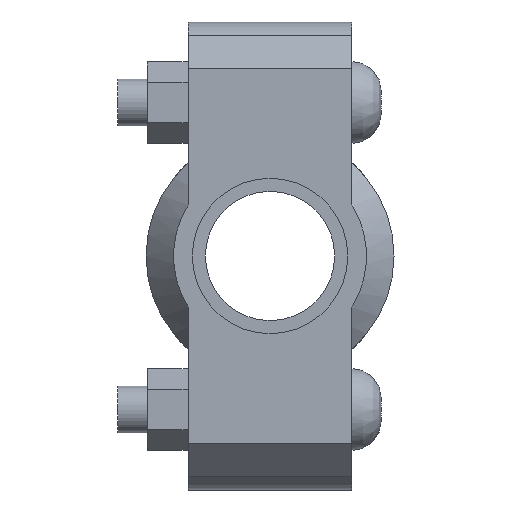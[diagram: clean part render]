
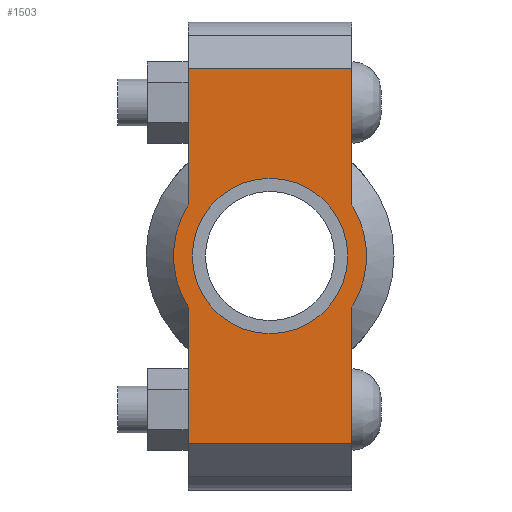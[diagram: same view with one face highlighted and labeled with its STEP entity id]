
A CAD part, left-side view. The second image highlights one B-rep face of the part: STEP entity #1503.
In plain terms, the highlighted planar face has unit normal (-1, 0, 0) as drawn and (0, 0, 1) by its records, which use the part's own axes.
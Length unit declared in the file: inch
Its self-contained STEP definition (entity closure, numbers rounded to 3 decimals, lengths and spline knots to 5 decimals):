
#114=LINE('',#2581,#209);
#129=LINE('',#2640,#224);
#137=LINE('',#2670,#232);
#139=LINE('',#2673,#234);
#140=LINE('',#2678,#235);
#141=LINE('',#2679,#236);
#209=VECTOR('',#2091,0.3937);
#224=VECTOR('',#2126,0.3937);
#232=VECTOR('',#2146,0.3937);
#234=VECTOR('',#2150,0.3937);
#235=VECTOR('',#2155,0.3937);
#236=VECTOR('',#2156,0.3937);
#296=FACE_BOUND('',#455,.T.);
#356=FACE_OUTER_BOUND('',#454,.T.);
#454=EDGE_LOOP('',(#1198,#1199,#1200,#1201,#1202,#1203,#1204,#1205));
#455=EDGE_LOOP('',(#1206));
#560=CIRCLE('',#1766,1.031);
#561=CIRCLE('',#1767,1.031);
#562=CIRCLE('',#1768,0.83);
#669=VERTEX_POINT('',#2578);
#670=VERTEX_POINT('',#2580);
#691=VERTEX_POINT('',#2635);
#692=VERTEX_POINT('',#2639);
#701=VERTEX_POINT('',#2665);
#702=VERTEX_POINT('',#2669);
#703=VERTEX_POINT('',#2675);
#704=VERTEX_POINT('',#2677);
#705=VERTEX_POINT('',#2681);
#839=EDGE_CURVE('',#670,#669,#114,.T.);
#864=EDGE_CURVE('',#692,#691,#129,.T.);
#877=EDGE_CURVE('',#702,#701,#137,.T.);
#879=EDGE_CURVE('',#702,#669,#139,.T.);
#880=EDGE_CURVE('',#701,#703,#560,.T.);
#881=EDGE_CURVE('',#703,#704,#140,.T.);
#882=EDGE_CURVE('',#692,#704,#141,.T.);
#883=EDGE_CURVE('',#691,#670,#561,.T.);
#884=EDGE_CURVE('',#705,#705,#562,.T.);
#1198=ORIENTED_EDGE('',*,*,#879,.F.);
#1199=ORIENTED_EDGE('',*,*,#877,.T.);
#1200=ORIENTED_EDGE('',*,*,#880,.T.);
#1201=ORIENTED_EDGE('',*,*,#881,.T.);
#1202=ORIENTED_EDGE('',*,*,#882,.F.);
#1203=ORIENTED_EDGE('',*,*,#864,.T.);
#1204=ORIENTED_EDGE('',*,*,#883,.T.);
#1205=ORIENTED_EDGE('',*,*,#839,.T.);
#1206=ORIENTED_EDGE('',*,*,#884,.T.);
#1355=PLANE('',#1765);
#1503=ADVANCED_FACE('',(#356,#296),#1355,.T.);
#1765=AXIS2_PLACEMENT_3D('',#2674,#2151,#2152);
#1766=AXIS2_PLACEMENT_3D('',#2676,#2153,#2154);
#1767=AXIS2_PLACEMENT_3D('',#2680,#2157,#2158);
#1768=AXIS2_PLACEMENT_3D('',#2682,#2159,#2160);
#2091=DIRECTION('',(1.,0.,0.));
#2126=DIRECTION('',(1.,0.,0.));
#2146=DIRECTION('',(-1.,0.,0.));
#2150=DIRECTION('',(0.,-1.,0.));
#2151=DIRECTION('center_axis',(0.,0.,1.));
#2152=DIRECTION('ref_axis',(-1.,0.,0.));
#2153=DIRECTION('center_axis',(0.,0.,1.));
#2154=DIRECTION('ref_axis',(1.,0.,0.));
#2155=DIRECTION('',(-1.,0.,0.));
#2156=DIRECTION('',(0.,1.,0.));
#2157=DIRECTION('center_axis',(0.,0.,1.));
#2158=DIRECTION('ref_axis',(1.,0.,0.));
#2159=DIRECTION('center_axis',(0.,0.,-1.));
#2160=DIRECTION('ref_axis',(1.,0.,0.));
#2578=CARTESIAN_POINT('',(2.,-0.875,0.94));
#2580=CARTESIAN_POINT('',(0.54529,-0.875,0.94));
#2581=CARTESIAN_POINT('',(-2.5,-0.875,0.94));
#2635=CARTESIAN_POINT('',(-0.54529,-0.875,0.94));
#2639=CARTESIAN_POINT('',(-2.,-0.875,0.94));
#2640=CARTESIAN_POINT('',(-2.5,-0.875,0.94));
#2665=CARTESIAN_POINT('',(0.54529,0.875,0.94));
#2669=CARTESIAN_POINT('',(2.,0.875,0.94));
#2670=CARTESIAN_POINT('',(2.5,0.875,0.94));
#2673=CARTESIAN_POINT('',(2.,-0.4375,0.94));
#2674=CARTESIAN_POINT('Origin',(0.,0.,
0.94));
#2675=CARTESIAN_POINT('',(-0.54529,0.875,0.94));
#2676=CARTESIAN_POINT('Origin',(0.,0.,0.94));
#2677=CARTESIAN_POINT('',(-2.,0.875,0.94));
#2678=CARTESIAN_POINT('',(2.5,0.875,0.94));
#2679=CARTESIAN_POINT('',(-2.,0.4375,0.94));
#2680=CARTESIAN_POINT('Origin',(0.,0.,0.94));
#2681=CARTESIAN_POINT('',(-0.83,0.,0.94));
#2682=CARTESIAN_POINT('Origin',(0.,0.,0.94));
